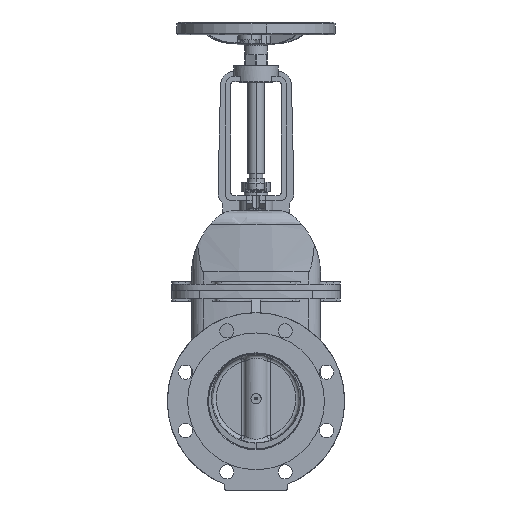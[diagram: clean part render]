
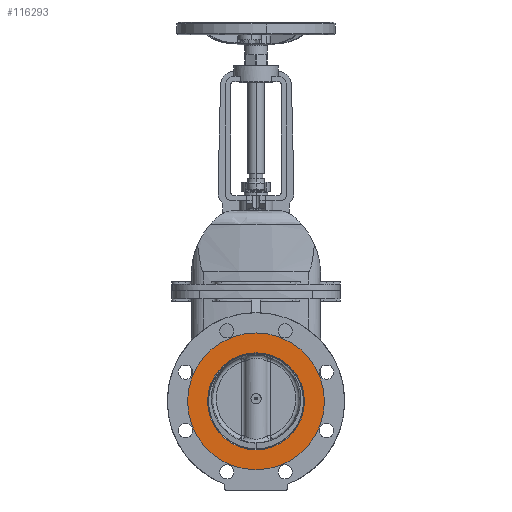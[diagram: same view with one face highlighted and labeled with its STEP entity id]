
A CAD part, left-side view. The second image highlights one B-rep face of the part: STEP entity #116293.
In plain terms, the highlighted planar face has unit normal (-1, 0, 0).
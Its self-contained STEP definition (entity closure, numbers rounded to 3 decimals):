
#93867 = CYLINDRICAL_SURFACE('',#93868,76.5);
#93868 = AXIS2_PLACEMENT_3D('',#93869,#93870,#93871);
#93869 = CARTESIAN_POINT('',(70.432,-415.844,
    402.051));
#93870 = DIRECTION('',(-1.,0.,0.));
#93871 = DIRECTION('',(0.,0.,1.));
#95739 = VERTEX_POINT('',#95740);
#95740 = CARTESIAN_POINT('',(55.432,-415.844,
    325.551));
#95754 = CYLINDRICAL_SURFACE('',#95755,76.5);
#95755 = AXIS2_PLACEMENT_3D('',#95756,#95757,#95758);
#95756 = CARTESIAN_POINT('',(70.432,-415.844,
    402.051));
#95757 = DIRECTION('',(-1.,0.,0.));
#95758 = DIRECTION('',(0.,0.,1.));
#95766 = EDGE_CURVE('',#95739,#95767,#95769,.T.);
#95767 = VERTEX_POINT('',#95768);
#95768 = CARTESIAN_POINT('',(55.432,-415.844,
    478.551));
#95769 = SURFACE_CURVE('',#95770,(#95775,#95782),.PCURVE_S1.);
#95770 = CIRCLE('',#95771,76.5);
#95771 = AXIS2_PLACEMENT_3D('',#95772,#95773,#95774);
#95772 = CARTESIAN_POINT('',(55.432,-415.844,
    402.051));
#95773 = DIRECTION('',(-1.,0.,0.));
#95774 = DIRECTION('',(0.,0.,1.));
#95775 = PCURVE('',#93867,#95776);
#95776 = DEFINITIONAL_REPRESENTATION('',(#95777),#95781);
#95777 = LINE('',#95778,#95779);
#95778 = CARTESIAN_POINT('',(0.,15.));
#95779 = VECTOR('',#95780,1.);
#95780 = DIRECTION('',(1.,0.));
#95781 = ( GEOMETRIC_REPRESENTATION_CONTEXT(2) 
PARAMETRIC_REPRESENTATION_CONTEXT() REPRESENTATION_CONTEXT('2D SPACE',''
  ) );
#95782 = PCURVE('',#95783,#95788);
#95783 = PLANE('',#95784);
#95784 = AXIS2_PLACEMENT_3D('',#95785,#95786,#95787);
#95785 = CARTESIAN_POINT('',(55.432,-415.844,
    402.051));
#95786 = DIRECTION('',(1.,0.,0.));
#95787 = DIRECTION('',(0.,0.,-1.));
#95788 = DEFINITIONAL_REPRESENTATION('',(#95789),#95797);
#95789 = ( BOUNDED_CURVE() B_SPLINE_CURVE(2,(#95790,#95791,#95792,#95793
    ,#95794,#95795,#95796),.UNSPECIFIED.,.T.,.F.) 
B_SPLINE_CURVE_WITH_KNOTS((1,2,2,2,2,1),(-2.094,0.,
    2.094,4.189,6.283,8.378),
.UNSPECIFIED.) CURVE() GEOMETRIC_REPRESENTATION_ITEM() 
RATIONAL_B_SPLINE_CURVE((1.,0.5,1.,0.5,1.,0.5,1.)) REPRESENTATION_ITEM(
  '') );
#95790 = CARTESIAN_POINT('',(-76.5,0.));
#95791 = CARTESIAN_POINT('',(-76.5,132.502));
#95792 = CARTESIAN_POINT('',(38.25,66.251));
#95793 = CARTESIAN_POINT('',(153.,0.));
#95794 = CARTESIAN_POINT('',(38.25,-66.251));
#95795 = CARTESIAN_POINT('',(-76.5,-132.502));
#95796 = CARTESIAN_POINT('',(-76.5,0.));
#95797 = ( GEOMETRIC_REPRESENTATION_CONTEXT(2) 
PARAMETRIC_REPRESENTATION_CONTEXT() REPRESENTATION_CONTEXT('2D SPACE',''
  ) );
#95835 = CYLINDRICAL_SURFACE('',#95836,108.);
#95836 = AXIS2_PLACEMENT_3D('',#95837,#95838,#95839);
#95837 = CARTESIAN_POINT('',(57.432,-415.844,
    402.051));
#95838 = DIRECTION('',(-1.,0.,0.));
#95839 = DIRECTION('',(0.,0.,1.));
#95860 = VERTEX_POINT('',#95861);
#95861 = CARTESIAN_POINT('',(55.432,-415.844,
    294.051));
#95875 = CYLINDRICAL_SURFACE('',#95876,108.);
#95876 = AXIS2_PLACEMENT_3D('',#95877,#95878,#95879);
#95877 = CARTESIAN_POINT('',(57.432,-415.844,
    402.051));
#95878 = DIRECTION('',(-1.,0.,0.));
#95879 = DIRECTION('',(0.,0.,1.));
#95887 = EDGE_CURVE('',#95888,#95860,#95890,.T.);
#95888 = VERTEX_POINT('',#95889);
#95889 = CARTESIAN_POINT('',(55.432,-415.844,
    510.051));
#95890 = SURFACE_CURVE('',#95891,(#95896,#95903),.PCURVE_S1.);
#95891 = CIRCLE('',#95892,108.);
#95892 = AXIS2_PLACEMENT_3D('',#95893,#95894,#95895);
#95893 = CARTESIAN_POINT('',(55.432,-415.844,
    402.051));
#95894 = DIRECTION('',(-1.,0.,0.));
#95895 = DIRECTION('',(0.,0.,1.));
#95896 = PCURVE('',#95835,#95897);
#95897 = DEFINITIONAL_REPRESENTATION('',(#95898),#95902);
#95898 = LINE('',#95899,#95900);
#95899 = CARTESIAN_POINT('',(0.,2.));
#95900 = VECTOR('',#95901,1.);
#95901 = DIRECTION('',(1.,0.));
#95902 = ( GEOMETRIC_REPRESENTATION_CONTEXT(2) 
PARAMETRIC_REPRESENTATION_CONTEXT() REPRESENTATION_CONTEXT('2D SPACE',''
  ) );
#95903 = PCURVE('',#95783,#95904);
#95904 = DEFINITIONAL_REPRESENTATION('',(#95905),#95913);
#95905 = ( BOUNDED_CURVE() B_SPLINE_CURVE(2,(#95906,#95907,#95908,#95909
    ,#95910,#95911,#95912),.UNSPECIFIED.,.T.,.F.) 
B_SPLINE_CURVE_WITH_KNOTS((1,2,2,2,2,1),(-2.094,0.,
    2.094,4.189,6.283,8.378),
.UNSPECIFIED.) CURVE() GEOMETRIC_REPRESENTATION_ITEM() 
RATIONAL_B_SPLINE_CURVE((1.,0.5,1.,0.5,1.,0.5,1.)) REPRESENTATION_ITEM(
  '') );
#95906 = CARTESIAN_POINT('',(-108.,0.));
#95907 = CARTESIAN_POINT('',(-108.,187.061));
#95908 = CARTESIAN_POINT('',(54.,93.531));
#95909 = CARTESIAN_POINT('',(216.,0.));
#95910 = CARTESIAN_POINT('',(54.,-93.531));
#95911 = CARTESIAN_POINT('',(-108.,-187.061));
#95912 = CARTESIAN_POINT('',(-108.,0.));
#95913 = ( GEOMETRIC_REPRESENTATION_CONTEXT(2) 
PARAMETRIC_REPRESENTATION_CONTEXT() REPRESENTATION_CONTEXT('2D SPACE',''
  ) );
#116164 = EDGE_CURVE('',#95860,#95888,#116165,.T.);
#116165 = SURFACE_CURVE('',#116166,(#116171,#116178),.PCURVE_S1.);
#116166 = CIRCLE('',#116167,108.);
#116167 = AXIS2_PLACEMENT_3D('',#116168,#116169,#116170);
#116168 = CARTESIAN_POINT('',(55.432,-415.844,
    402.051));
#116169 = DIRECTION('',(-1.,0.,0.));
#116170 = DIRECTION('',(0.,0.,1.));
#116171 = PCURVE('',#95875,#116172);
#116172 = DEFINITIONAL_REPRESENTATION('',(#116173),#116177);
#116173 = LINE('',#116174,#116175);
#116174 = CARTESIAN_POINT('',(0.,2.));
#116175 = VECTOR('',#116176,1.);
#116176 = DIRECTION('',(1.,0.));
#116177 = ( GEOMETRIC_REPRESENTATION_CONTEXT(2) 
PARAMETRIC_REPRESENTATION_CONTEXT() REPRESENTATION_CONTEXT('2D SPACE',''
  ) );
#116178 = PCURVE('',#95783,#116179);
#116179 = DEFINITIONAL_REPRESENTATION('',(#116180),#116188);
#116180 = ( BOUNDED_CURVE() B_SPLINE_CURVE(2,(#116181,#116182,#116183,
    #116184,#116185,#116186,#116187),.UNSPECIFIED.,.T.,.F.) 
B_SPLINE_CURVE_WITH_KNOTS((1,2,2,2,2,1),(-2.094,0.,
    2.094,4.189,6.283,8.378),
.UNSPECIFIED.) CURVE() GEOMETRIC_REPRESENTATION_ITEM() 
RATIONAL_B_SPLINE_CURVE((1.,0.5,1.,0.5,1.,0.5,1.)) REPRESENTATION_ITEM(
  '') );
#116181 = CARTESIAN_POINT('',(-108.,0.));
#116182 = CARTESIAN_POINT('',(-108.,187.061));
#116183 = CARTESIAN_POINT('',(54.,93.531));
#116184 = CARTESIAN_POINT('',(216.,0.));
#116185 = CARTESIAN_POINT('',(54.,-93.531));
#116186 = CARTESIAN_POINT('',(-108.,-187.061));
#116187 = CARTESIAN_POINT('',(-108.,0.));
#116188 = ( GEOMETRIC_REPRESENTATION_CONTEXT(2) 
PARAMETRIC_REPRESENTATION_CONTEXT() REPRESENTATION_CONTEXT('2D SPACE',''
  ) );
#116244 = EDGE_CURVE('',#95767,#95739,#116245,.T.);
#116245 = SURFACE_CURVE('',#116246,(#116251,#116258),.PCURVE_S1.);
#116246 = CIRCLE('',#116247,76.5);
#116247 = AXIS2_PLACEMENT_3D('',#116248,#116249,#116250);
#116248 = CARTESIAN_POINT('',(55.432,-415.844,
    402.051));
#116249 = DIRECTION('',(-1.,0.,0.));
#116250 = DIRECTION('',(0.,0.,1.));
#116251 = PCURVE('',#95754,#116252);
#116252 = DEFINITIONAL_REPRESENTATION('',(#116253),#116257);
#116253 = LINE('',#116254,#116255);
#116254 = CARTESIAN_POINT('',(0.,15.));
#116255 = VECTOR('',#116256,1.);
#116256 = DIRECTION('',(1.,0.));
#116257 = ( GEOMETRIC_REPRESENTATION_CONTEXT(2) 
PARAMETRIC_REPRESENTATION_CONTEXT() REPRESENTATION_CONTEXT('2D SPACE',''
  ) );
#116258 = PCURVE('',#95783,#116259);
#116259 = DEFINITIONAL_REPRESENTATION('',(#116260),#116268);
#116260 = ( BOUNDED_CURVE() B_SPLINE_CURVE(2,(#116261,#116262,#116263,
    #116264,#116265,#116266,#116267),.UNSPECIFIED.,.T.,.F.) 
B_SPLINE_CURVE_WITH_KNOTS((1,2,2,2,2,1),(-2.094,0.,
    2.094,4.189,6.283,8.378),
.UNSPECIFIED.) CURVE() GEOMETRIC_REPRESENTATION_ITEM() 
RATIONAL_B_SPLINE_CURVE((1.,0.5,1.,0.5,1.,0.5,1.)) REPRESENTATION_ITEM(
  '') );
#116261 = CARTESIAN_POINT('',(-76.5,0.));
#116262 = CARTESIAN_POINT('',(-76.5,132.502));
#116263 = CARTESIAN_POINT('',(38.25,66.251));
#116264 = CARTESIAN_POINT('',(153.,0.));
#116265 = CARTESIAN_POINT('',(38.25,-66.251));
#116266 = CARTESIAN_POINT('',(-76.5,-132.502));
#116267 = CARTESIAN_POINT('',(-76.5,0.));
#116268 = ( GEOMETRIC_REPRESENTATION_CONTEXT(2) 
PARAMETRIC_REPRESENTATION_CONTEXT() REPRESENTATION_CONTEXT('2D SPACE',''
  ) );
#116293 = ADVANCED_FACE('',(#116294,#116298),#95783,.F.);
#116294 = FACE_BOUND('',#116295,.T.);
#116295 = EDGE_LOOP('',(#116296,#116297));
#116296 = ORIENTED_EDGE('',*,*,#116244,.F.);
#116297 = ORIENTED_EDGE('',*,*,#95766,.F.);
#116298 = FACE_BOUND('',#116299,.T.);
#116299 = EDGE_LOOP('',(#116300,#116301));
#116300 = ORIENTED_EDGE('',*,*,#95887,.T.);
#116301 = ORIENTED_EDGE('',*,*,#116164,.T.);
